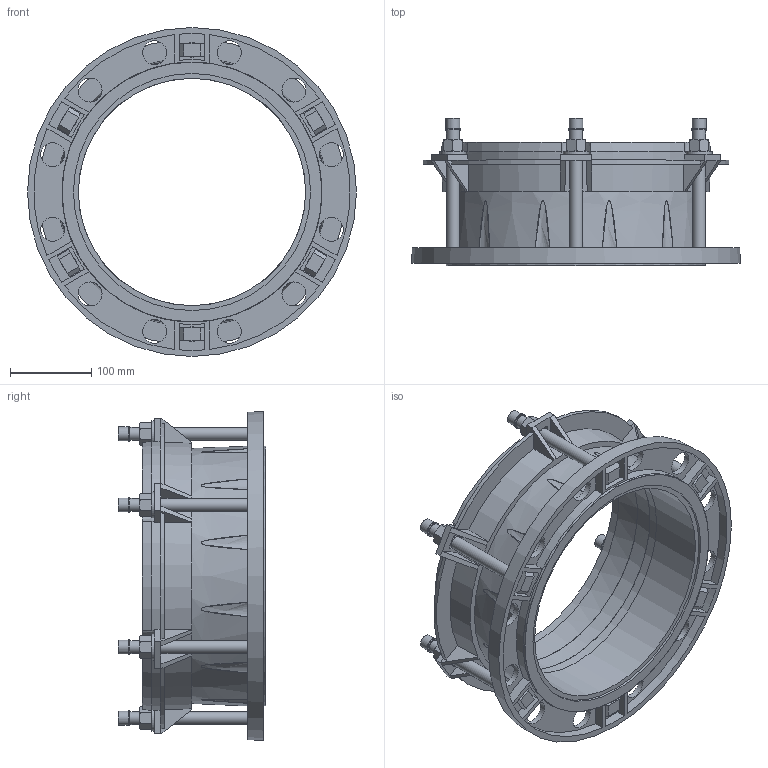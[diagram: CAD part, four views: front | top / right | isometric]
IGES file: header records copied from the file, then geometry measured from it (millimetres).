
Start section: SolidWorks IGES file using analytic representation for surfaces
Global section: file name: \\avksan2\techshare\PBM outline export from Enovia\O_623_10_DN250-280mm_X1XXXXX_REV01.igs; native system: SolidWorks 2019; preprocessor: SolidWorks 2019; author: pbm; date: 200417.112125; units: millimetre
Bounding box: 405 x 181.5 x 405 mm (x, y, z)
Surface area: 600177.8 mm2 (no closed solid volume)
Topology: 0 solids, 0 shells, 549 faces, 2703 edges, 2634 vertices
Faces by surface type: bspline 310, revolution 239
